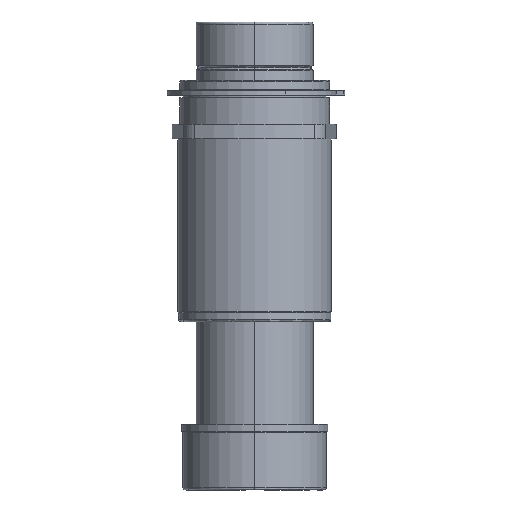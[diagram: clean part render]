
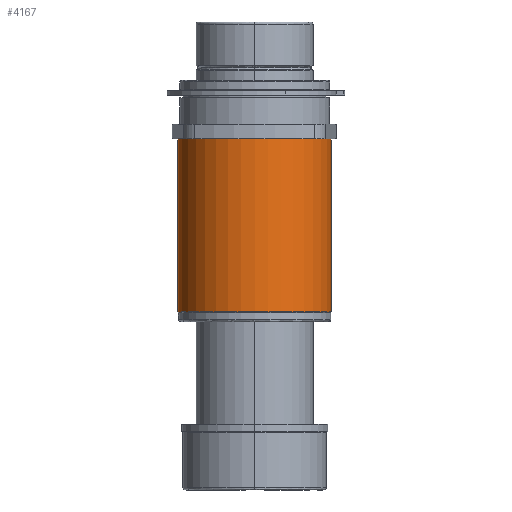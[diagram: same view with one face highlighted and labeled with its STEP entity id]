
A CAD part, left-side view. The second image highlights one B-rep face of the part: STEP entity #4167.
In plain terms, the highlighted cylindrical face has radius 33.326 mm (diameter 66.652 mm), a partial arc.
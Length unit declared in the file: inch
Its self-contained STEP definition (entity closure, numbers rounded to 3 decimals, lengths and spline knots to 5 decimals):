
#45 = CARTESIAN_POINT ( 'NONE',  ( 0., 0., 0. ) ) ;
#119 = EDGE_CURVE ( 'NONE', #1399, #1642, #2844, .T. ) ;
#172 = DIRECTION ( 'NONE',  ( 0., 1., 0. ) ) ;
#190 = CARTESIAN_POINT ( 'NONE',  ( 0., -3.125, 0. ) ) ;
#239 = VECTOR ( 'NONE', #3374, 39.37008 ) ;
#733 = LINE ( 'NONE', #1037, #1288 ) ;
#889 = DIRECTION ( 'NONE',  ( 0., 0., 1. ) ) ;
#1037 = CARTESIAN_POINT ( 'NONE',  ( 0., -3.125, 1.31205 ) ) ;
#1214 = EDGE_LOOP ( 'NONE', ( #2189, #4924, #4009, #1449 ) ) ;
#1243 = EDGE_CURVE ( 'NONE', #1642, #4186, #4912, .T. ) ;
#1288 = VECTOR ( 'NONE', #3833, 39.37008 ) ;
#1343 = DIRECTION ( 'NONE',  ( 0., 0., 1. ) ) ;
#1374 = DIRECTION ( 'NONE',  ( 0., -1., 0. ) ) ;
#1399 = VERTEX_POINT ( 'NONE', #3854 ) ;
#1446 = CARTESIAN_POINT ( 'NONE',  ( 0., -2.95, -1.31205 ) ) ;
#1449 = ORIENTED_EDGE ( 'NONE', *, *, #2166, .T. ) ;
#1642 = VERTEX_POINT ( 'NONE', #1446 ) ;
#1693 = VERTEX_POINT ( 'NONE', #2627 ) ;
#1801 = CARTESIAN_POINT ( 'NONE',  ( 0., -2.95, 0. ) ) ;
#1803 = FACE_OUTER_BOUND ( 'NONE', #1214, .T. ) ;
#1818 = CIRCLE ( 'NONE', #3084, 1.31205 ) ;
#2020 = AXIS2_PLACEMENT_3D ( 'NONE', #190, #172, #1343 ) ;
#2166 = EDGE_CURVE ( 'NONE', #1693, #4186, #1818, .T. ) ;
#2189 = ORIENTED_EDGE ( 'NONE', *, *, #1243, .F. ) ;
#2305 = AXIS2_PLACEMENT_3D ( 'NONE', #1801, #1374, #4183 ) ;
#2627 = CARTESIAN_POINT ( 'NONE',  ( 0., 0., 1.31205 ) ) ;
#2819 = EDGE_CURVE ( 'NONE', #1399, #1693, #733, .T. ) ;
#2844 = CIRCLE ( 'NONE', #2305, 1.31205 ) ;
#2886 = DIRECTION ( 'NONE',  ( 0., -1., 0. ) ) ;
#3084 = AXIS2_PLACEMENT_3D ( 'NONE', #45, #2886, #889 ) ;
#3374 = DIRECTION ( 'NONE',  ( 0., 1., 0. ) ) ;
#3786 = CARTESIAN_POINT ( 'NONE',  ( 0., 0., -1.31205 ) ) ;
#3833 = DIRECTION ( 'NONE',  ( 0., 1., 0. ) ) ;
#3854 = CARTESIAN_POINT ( 'NONE',  ( 0., -2.95, 1.31205 ) ) ;
#4009 = ORIENTED_EDGE ( 'NONE', *, *, #2819, .T. ) ;
#4167 = ADVANCED_FACE ( 'NONE', ( #1803 ), #4863, .T. ) ;
#4183 = DIRECTION ( 'NONE',  ( 0., 0., 1. ) ) ;
#4186 = VERTEX_POINT ( 'NONE', #3786 ) ;
#4863 = CYLINDRICAL_SURFACE ( 'NONE', #2020, 1.31205 ) ;
#4899 = CARTESIAN_POINT ( 'NONE',  ( 0., -3.125, -1.31205 ) ) ;
#4912 = LINE ( 'NONE', #4899, #239 ) ;
#4924 = ORIENTED_EDGE ( 'NONE', *, *, #119, .F. ) ;
